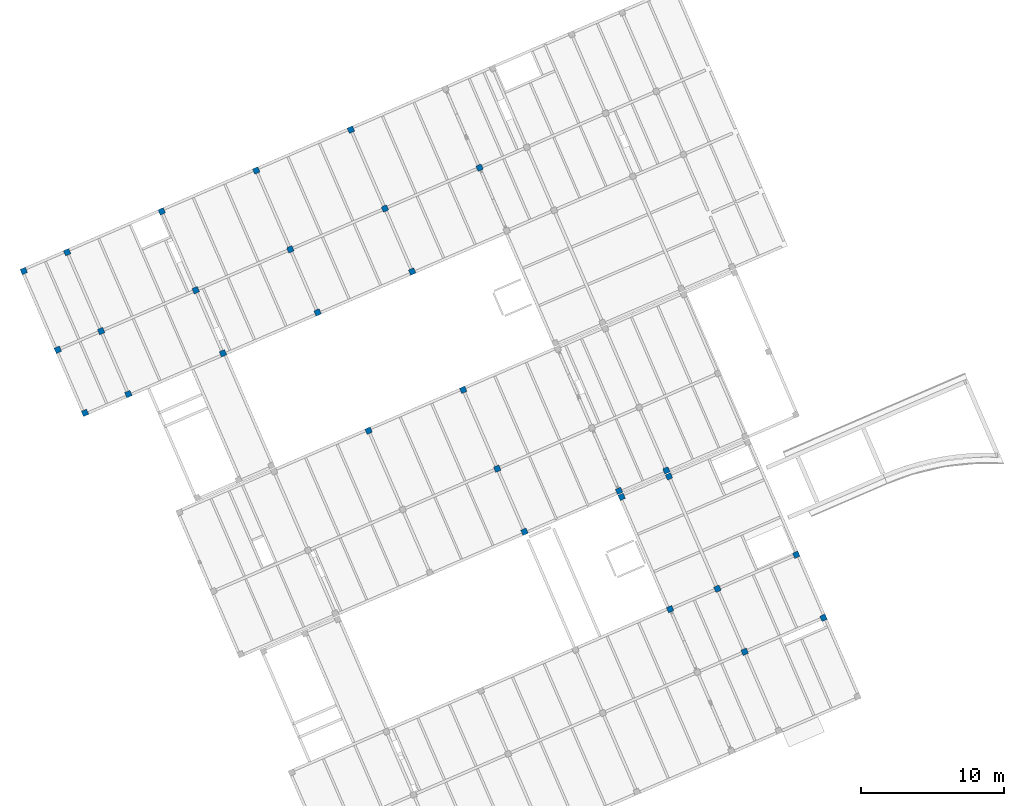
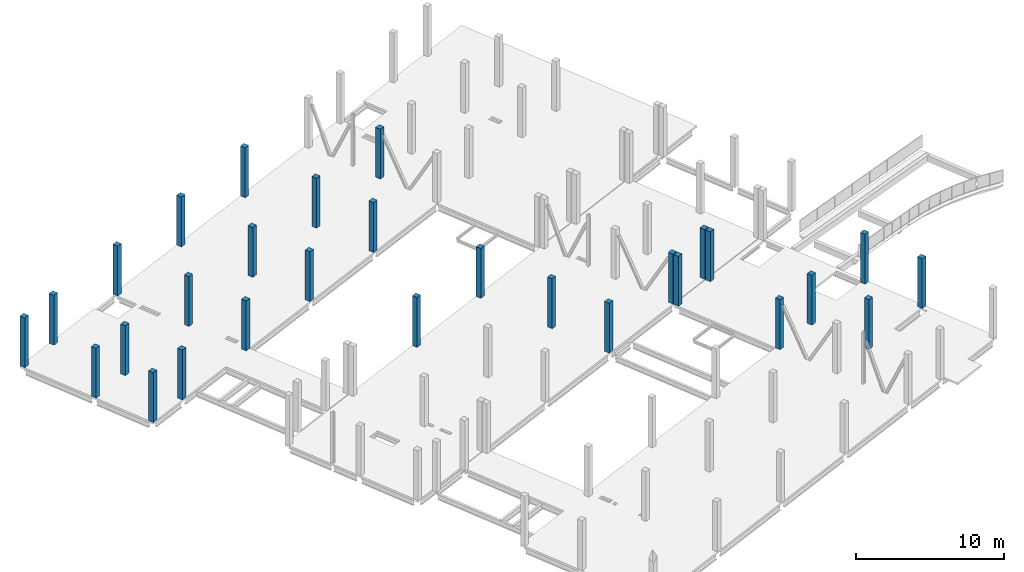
# One storey, part 4 of 24: 29 columns.
"""IFC4 building model written with IfcOpenShell, lengths in metres."""

from ifc_helpers import new_model, entity, si_unit, converted_unit, derived_unit, direction, frame, origin, place, context, subcontext, project, spatial, indexed_curve, outline, extrude, source, transform, mapped, material, type_object, type_shapes, element, save


model = new_model("IFC4")

# Units and contexts
model_context = context("Model", 3, precision=1e-05, world=origin(), true_north=direction((6.12323399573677e-17, 1.0)))
body_context = subcontext(model_context, "Body", "Model", "MODEL_VIEW")
ifc_project = project(units=[si_unit("LENGTHUNIT", "METRE"), si_unit("AREAUNIT", "SQUARE_METRE"), si_unit("VOLUMEUNIT", "CUBIC_METRE"), converted_unit("PLANEANGLEUNIT", "DEGREE", entity("IfcPlaneAngleMeasure", 0.0174532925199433), si_unit("PLANEANGLEUNIT", "RADIAN"), dimensions=[0, 0, 0, 0, 0, 0, 0]), si_unit("MASSUNIT", "GRAM", prefix="KILO"), derived_unit("MOMENTOFINERTIAUNIT", [(si_unit("LENGTHUNIT", "METRE"), 4)]), derived_unit("LINEARFORCEUNIT", [(si_unit("MASSUNIT", "GRAM", prefix="KILO"), 1), (si_unit("TIMEUNIT", "SECOND"), -2)]), derived_unit("WARPINGCONSTANTUNIT", [(si_unit("LENGTHUNIT", "METRE"), 6)]), derived_unit("THERMALTRANSMITTANCEUNIT", [(si_unit("MASSUNIT", "GRAM", prefix="KILO"), 1), (si_unit("THERMODYNAMICTEMPERATUREUNIT", "KELVIN"), -1), (si_unit("TIMEUNIT", "SECOND"), -3)]), derived_unit("USERDEFINED", [(si_unit("MASSUNIT", "GRAM", prefix="KILO"), 1), (si_unit("TIMEUNIT", "SECOND"), -2), (si_unit("THERMODYNAMICTEMPERATUREUNIT", "KELVIN"), -1)]), derived_unit("THERMALRESISTANCEUNIT", [(si_unit("MASSUNIT", "GRAM", prefix="KILO"), -1), (si_unit("TIMEUNIT", "SECOND"), 3), (si_unit("THERMODYNAMICTEMPERATUREUNIT", "KELVIN"), 1)])], contexts=[model_context])

# Site, building, storey
site_placement = place(None, origin())
site = spatial("IfcSite", under=ifc_project, at=site_placement, Name="Default", CompositionType="ELEMENT")
building_placement = place(site_placement, frame((12.6613425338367, -82.5732315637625, 317.15), z_axis=(0.0, 0.0, 1.0), x_axis=(-0.396377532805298, 0.918087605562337, 0.0)))
building = spatial("IfcBuilding", under=site, at=building_placement, Name="CESFAM Coyhaique", CompositionType="ELEMENT")
storey_placement = place(building_placement, frame((0.0, 0.0, 4.20000000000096)))
storey = spatial("IfcBuildingStorey", under=building, at=storey_placement, Name="Nivel 2", CompositionType="ELEMENT", Elevation=4.20000000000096)

# Columns
ifc_material = material(Name="HA")
column_type_1 = type_object("IfcColumnType", Name="M_Concrete-Square-Column:400 x 400mm", PredefinedType="COLUMN", material=ifc_material)
shared_shape_1 = source(origin(), body_context, "Body", "SweptSolid", [
    extrude(outline(indexed_curve([(-0.22, -0.159999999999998), (0.079999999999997, -0.159999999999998), (0.18, -0.159999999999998), (0.18, 0.240000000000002), (-0.22, 0.240000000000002), (-0.22, -0.159999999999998)], self_intersect=False)), frame((10.148853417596, -21.1571495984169, 4.20000000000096), z_axis=(0.0, 0.0, 1.0), x_axis=(-1.0, 0.0, 0.0)), (0.0, 0.0, 1.0), 4.10000000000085),
])
type_shapes(column_type_1, [shared_shape_1])
column_1_placement = place(storey_placement, frame((0.0, 0.0, -4.20000000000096)))
element("IfcColumn", 1, at=column_1_placement, inside=storey, type_object=column_type_1, Name="M_Concrete-Square-Column:400 x 400mm", ObjectType="M_Concrete-Square-Column:400 x 400mm", PredefinedType="COLUMN", context=body_context, shape_type="MappedRepresentation", body=[
    mapped(shared_shape_1, transform((0.0, 0.0, 0.0), scale=1.0)),
])
column_type_2 = type_object("IfcColumnType", Name="M_Concrete-Square-Column:400 x 400mm", PredefinedType="COLUMN", material=ifc_material)
shared_shape_2 = source(origin(), body_context, "Body", "SweptSolid", [
    extrude(outline(indexed_curve([(-0.2, -0.2), (0.2, -0.2), (0.2, 0.2), (-0.2, 0.2), (-0.2, -0.2)], self_intersect=False)), frame((14.9688534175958, -11.5971495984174, 4.20000000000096), z_axis=(0.0, 0.0, 1.0), x_axis=(-1.0, 0.0, 0.0)), (0.0, 0.0, 1.0), 4.10000000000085),
])
type_shapes(column_type_2, [shared_shape_2])
column_2_placement = place(storey_placement, frame((0.0, 0.0, -4.20000000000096)))
element("IfcColumn", 2, at=column_2_placement, inside=storey, type_object=column_type_2, Name="M_Concrete-Square-Column:400 x 400mm", ObjectType="M_Concrete-Square-Column:400 x 400mm", PredefinedType="COLUMN", context=body_context, shape_type="MappedRepresentation", body=[
    mapped(shared_shape_2, transform((0.0, 0.0, 0.0), scale=1.0)),
])
column_type_3 = type_object("IfcColumnType", Name="M_Concrete-Square-Column:400 x 400mm", PredefinedType="COLUMN", material=ifc_material)
shared_shape_3 = source(origin(), body_context, "Body", "SweptSolid", [
    extrude(outline(indexed_curve([(-0.159999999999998, -0.179999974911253), (0.240000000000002, -0.179999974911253), (0.240000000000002, 0.220000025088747), (-0.159999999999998, 0.220000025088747), (-0.159999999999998, -0.0800001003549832), (-0.159999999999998, -0.179999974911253)], self_intersect=False)), frame((15.0088534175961, -21.1771495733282, 4.20000000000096), z_axis=(0.0, 0.0, 1.0), x_axis=(-1.0, 0.0, 0.0)), (0.0, 0.0, 1.0), 4.10000000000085),
])
type_shapes(column_type_3, [shared_shape_3])
column_3_placement = place(storey_placement, frame((0.0, 0.0, -4.20000000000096)))
element("IfcColumn", 3, at=column_3_placement, inside=storey, type_object=column_type_3, Name="M_Concrete-Square-Column:400 x 400mm", ObjectType="M_Concrete-Square-Column:400 x 400mm", PredefinedType="COLUMN", context=body_context, shape_type="MappedRepresentation", body=[
    mapped(shared_shape_3, transform((0.0, 0.0, 0.0), scale=1.0)),
])
column_type_4 = type_object("IfcColumnType", Name="M_Concrete-Square-Column:400 x 400mm", PredefinedType="COLUMN", material=ifc_material)
shared_shape_4 = source(origin(), body_context, "Body", "SweptSolid", [
    extrude(outline(indexed_curve([(-0.199999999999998, -0.2), (0.200000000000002, -0.2), (0.200000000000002, 0.2), (-0.199999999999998, 0.2), (-0.199999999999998, -0.2)], self_intersect=False)), frame((23.9688534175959, -4.39714959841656, 4.20000000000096), z_axis=(0.0, 0.0, 1.0), x_axis=(-1.0, 0.0, 0.0)), (0.0, 0.0, 1.0), 4.10000000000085),
])
type_shapes(column_type_4, [shared_shape_4])
column_4_placement = place(storey_placement, frame((0.0, 0.0, -4.20000000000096)))
element("IfcColumn", 4, at=column_4_placement, inside=storey, type_object=column_type_4, Name="M_Concrete-Square-Column:400 x 400mm", ObjectType="M_Concrete-Square-Column:400 x 400mm", PredefinedType="COLUMN", context=body_context, shape_type="MappedRepresentation", body=[
    mapped(shared_shape_4, transform((0.0, 0.0, 0.0), scale=1.0)),
])
column_type_5 = type_object("IfcColumnType", Name="M_Concrete-Square-Column:400 x 400mm", PredefinedType="COLUMN", material=ifc_material)
shared_shape_5 = source(origin(), body_context, "Body", "SweptSolid", [
    extrude(outline(indexed_curve([(-0.199999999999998, -0.2), (0.200000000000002, -0.2), (0.200000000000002, 0.2), (-0.199999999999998, 0.2), (-0.199999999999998, -0.2)], self_intersect=False)), frame((23.9688534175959, -11.5971495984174, 4.20000000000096), z_axis=(0.0, 0.0, 1.0), x_axis=(-1.0, 0.0, 0.0)), (0.0, 0.0, 1.0), 4.10000000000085),
])
type_shapes(column_type_5, [shared_shape_5])
column_5_placement = place(storey_placement, frame((0.0, 0.0, -4.20000000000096)))
element("IfcColumn", 5, at=column_5_placement, inside=storey, type_object=column_type_5, Name="M_Concrete-Square-Column:400 x 400mm", ObjectType="M_Concrete-Square-Column:400 x 400mm", PredefinedType="COLUMN", context=body_context, shape_type="MappedRepresentation", body=[
    mapped(shared_shape_5, transform((0.0, 0.0, 0.0), scale=1.0)),
])
column_type_6 = type_object("IfcColumnType", Name="M_Concrete-Square-Column:400 x 400mm", PredefinedType="COLUMN", material=ifc_material)
shared_shape_6 = source(origin(), body_context, "Body", "SweptSolid", [
    extrude(outline(indexed_curve([(-0.200000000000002, -0.2), (0.199999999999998, -0.2), (0.199999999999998, 0.2), (-0.200000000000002, 0.2), (-0.200000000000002, -0.2)], self_intersect=False)), frame((28.7688534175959, -4.39714959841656, 4.20000000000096), z_axis=(0.0, 0.0, 1.0), x_axis=(-1.0, 0.0, 0.0)), (0.0, 0.0, 1.0), 4.10000000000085),
])
type_shapes(column_type_6, [shared_shape_6])
column_6_placement = place(storey_placement, frame((0.0, 0.0, -4.20000000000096)))
element("IfcColumn", 6, at=column_6_placement, inside=storey, type_object=column_type_6, Name="M_Concrete-Square-Column:400 x 400mm", ObjectType="M_Concrete-Square-Column:400 x 400mm", PredefinedType="COLUMN", context=body_context, shape_type="MappedRepresentation", body=[
    mapped(shared_shape_6, transform((0.0, 0.0, 0.0), scale=1.0)),
])
column_type_7 = type_object("IfcColumnType", Name="M_Concrete-Square-Column:400 x 400mm", PredefinedType="COLUMN", material=ifc_material)
shared_shape_7 = source(origin(), body_context, "Body", "SweptSolid", [
    extrude(outline(indexed_curve([(-0.199999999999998, -0.2), (0.200000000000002, -0.2), (0.200000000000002, 0.2), (-0.199999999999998, 0.2), (-0.199999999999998, -0.2)], self_intersect=False)), frame((34.768853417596, 2.8028504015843, 4.20000000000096), z_axis=(0.0, 0.0, 1.0), x_axis=(-1.0, 0.0, 0.0)), (0.0, 0.0, 1.0), 4.10000000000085),
])
type_shapes(column_type_7, [shared_shape_7])
column_7_placement = place(storey_placement, frame((0.0, 0.0, -4.20000000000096)))
element("IfcColumn", 7, at=column_7_placement, inside=storey, type_object=column_type_7, Name="M_Concrete-Square-Column:400 x 400mm", ObjectType="M_Concrete-Square-Column:400 x 400mm", PredefinedType="COLUMN", context=body_context, shape_type="MappedRepresentation", body=[
    mapped(shared_shape_7, transform((0.0, 0.0, 0.0), scale=1.0)),
])
column_type_8 = type_object("IfcColumnType", Name="M_Concrete-Square-Column:400 x 400mm", PredefinedType="COLUMN", material=ifc_material)
shared_shape_8 = source(origin(), body_context, "Body", "SweptSolid", [
    extrude(outline(indexed_curve([(-0.199999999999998, -0.2), (0.200000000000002, -0.2), (0.200000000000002, 0.2), (-0.199999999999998, 0.2), (-0.199999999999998, -0.2)], self_intersect=False)), frame((34.768853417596, -4.39714959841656, 4.20000000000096), z_axis=(0.0, 0.0, 1.0), x_axis=(-1.0, 0.0, 0.0)), (0.0, 0.0, 1.0), 4.10000000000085),
])
type_shapes(column_type_8, [shared_shape_8])
column_8_placement = place(storey_placement, frame((0.0, 0.0, -4.20000000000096)))
element("IfcColumn", 8, at=column_8_placement, inside=storey, type_object=column_type_8, Name="M_Concrete-Square-Column:400 x 400mm", ObjectType="M_Concrete-Square-Column:400 x 400mm", PredefinedType="COLUMN", context=body_context, shape_type="MappedRepresentation", body=[
    mapped(shared_shape_8, transform((0.0, 0.0, 0.0), scale=1.0)),
])
column_type_9 = type_object("IfcColumnType", Name="M_Concrete-Square-Column:400 x 400mm", PredefinedType="COLUMN", material=ifc_material)
shared_shape_9 = source(origin(), body_context, "Body", "SweptSolid", [
    extrude(outline(indexed_curve([(-0.199999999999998, -0.2), (0.199999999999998, -0.2), (0.199999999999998, 0.2), (-0.199999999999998, 0.2), (-0.199999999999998, -0.2)], self_intersect=False)), frame((43.7688534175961, 17.2028504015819, 4.20000000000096), z_axis=(0.0, 0.0, 1.0), x_axis=(-1.0, 0.0, 0.0)), (0.0, 0.0, 1.0), 4.10000000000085),
])
type_shapes(column_type_9, [shared_shape_9])
column_9_placement = place(storey_placement, frame((0.0, 0.0, -4.20000000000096)))
element("IfcColumn", 9, at=column_9_placement, inside=storey, type_object=column_type_9, Name="M_Concrete-Square-Column:400 x 400mm", ObjectType="M_Concrete-Square-Column:400 x 400mm", PredefinedType="COLUMN", context=body_context, shape_type="MappedRepresentation", body=[
    mapped(shared_shape_9, transform((0.0, 0.0, 0.0), scale=1.0)),
])
column_type_10 = type_object("IfcColumnType", Name="M_Concrete-Square-Column:400 x 400mm", PredefinedType="COLUMN", material=ifc_material)
shared_shape_10 = source(origin(), body_context, "Body", "SweptSolid", [
    extrude(outline(indexed_curve([(-0.199999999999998, -0.2), (0.199999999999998, -0.2), (0.199999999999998, 0.2), (-0.199999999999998, 0.2), (-0.199999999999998, -0.2)], self_intersect=False)), frame((43.7688534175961, 10.0028504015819, 4.20000000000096), z_axis=(0.0, 0.0, 1.0), x_axis=(-1.0, 0.0, 0.0)), (0.0, 0.0, 1.0), 4.10000000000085),
])
type_shapes(column_type_10, [shared_shape_10])
column_10_placement = place(storey_placement, frame((0.0, 0.0, -4.20000000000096)))
element("IfcColumn", 10, at=column_10_placement, inside=storey, type_object=column_type_10, Name="M_Concrete-Square-Column:400 x 400mm", ObjectType="M_Concrete-Square-Column:400 x 400mm", PredefinedType="COLUMN", context=body_context, shape_type="MappedRepresentation", body=[
    mapped(shared_shape_10, transform((0.0, 0.0, 0.0), scale=1.0)),
])
column_type_11 = type_object("IfcColumnType", Name="M_Concrete-Square-Column:400 x 400mm", PredefinedType="COLUMN", material=ifc_material)
shared_shape_11 = source(origin(), body_context, "Body", "SweptSolid", [
    extrude(outline(indexed_curve([(-0.199999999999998, -0.2), (0.199999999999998, -0.2), (0.199999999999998, 0.2), (-0.199999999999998, 0.2), (-0.199999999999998, -0.2)], self_intersect=False)), frame((43.7688534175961, 2.8028504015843, 4.20000000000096), z_axis=(0.0, 0.0, 1.0), x_axis=(-1.0, 0.0, 0.0)), (0.0, 0.0, 1.0), 4.10000000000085),
])
type_shapes(column_type_11, [shared_shape_11])
column_11_placement = place(storey_placement, frame((0.0, 0.0, -4.20000000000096)))
element("IfcColumn", 11, at=column_11_placement, inside=storey, type_object=column_type_11, Name="M_Concrete-Square-Column:400 x 400mm", ObjectType="M_Concrete-Square-Column:400 x 400mm", PredefinedType="COLUMN", context=body_context, shape_type="MappedRepresentation", body=[
    mapped(shared_shape_11, transform((0.0, 0.0, 0.0), scale=1.0)),
])
column_type_12 = type_object("IfcColumnType", Name="M_Concrete-Square-Column:400 x 400mm", PredefinedType="COLUMN", material=ifc_material)
shared_shape_12 = source(origin(), body_context, "Body", "SweptSolid", [
    extrude(outline(indexed_curve([(-0.199999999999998, -0.2), (0.199999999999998, -0.2), (0.199999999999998, 0.2), (-0.199999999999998, 0.2), (-0.199999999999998, -0.2)], self_intersect=False)), frame((43.7688534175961, -4.39714959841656, 4.20000000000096), z_axis=(0.0, 0.0, 1.0), x_axis=(-1.0, 0.0, 0.0)), (0.0, 0.0, 1.0), 4.10000000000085),
])
type_shapes(column_type_12, [shared_shape_12])
column_12_placement = place(storey_placement, frame((0.0, 0.0, -4.20000000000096)))
element("IfcColumn", 12, at=column_12_placement, inside=storey, type_object=column_type_12, Name="M_Concrete-Square-Column:400 x 400mm", ObjectType="M_Concrete-Square-Column:400 x 400mm", PredefinedType="COLUMN", context=body_context, shape_type="MappedRepresentation", body=[
    mapped(shared_shape_12, transform((0.0, 0.0, 0.0), scale=1.0)),
])
column_type_13 = type_object("IfcColumnType", Name="M_Concrete-Square-Column:400 x 400mm", PredefinedType="COLUMN", material=ifc_material)
shared_shape_13 = source(origin(), body_context, "Body", "SweptSolid", [
    extrude(outline(indexed_curve([(-0.199999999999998, -0.2), (0.199999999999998, -0.2), (0.199999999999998, 0.2), (-0.199999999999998, 0.2), (-0.199999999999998, -0.2)], self_intersect=False)), frame((48.5688534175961, 17.2028504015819, 4.20000000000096), z_axis=(0.0, 0.0, 1.0), x_axis=(-1.0, 0.0, 0.0)), (0.0, 0.0, 1.0), 4.10000000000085),
])
type_shapes(column_type_13, [shared_shape_13])
column_13_placement = place(storey_placement, frame((0.0, 0.0, -4.20000000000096)))
element("IfcColumn", 13, at=column_13_placement, inside=storey, type_object=column_type_13, Name="M_Concrete-Square-Column:400 x 400mm", ObjectType="M_Concrete-Square-Column:400 x 400mm", PredefinedType="COLUMN", context=body_context, shape_type="MappedRepresentation", body=[
    mapped(shared_shape_13, transform((0.0, 0.0, 0.0), scale=1.0)),
])
column_type_14 = type_object("IfcColumnType", Name="M_Concrete-Square-Column:400 x 400mm", PredefinedType="COLUMN", material=ifc_material)
shared_shape_14 = source(origin(), body_context, "Body", "SweptSolid", [
    extrude(outline(indexed_curve([(-0.199999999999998, -0.2), (0.199999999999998, -0.2), (0.199999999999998, 0.2), (-0.199999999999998, 0.2), (-0.199999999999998, -0.2)], self_intersect=False)), frame((48.5688534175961, 10.0028504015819, 4.20000000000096), z_axis=(0.0, 0.0, 1.0), x_axis=(-1.0, 0.0, 0.0)), (0.0, 0.0, 1.0), 4.10000000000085),
])
type_shapes(column_type_14, [shared_shape_14])
column_14_placement = place(storey_placement, frame((0.0, 0.0, -4.20000000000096)))
element("IfcColumn", 14, at=column_14_placement, inside=storey, type_object=column_type_14, Name="M_Concrete-Square-Column:400 x 400mm", ObjectType="M_Concrete-Square-Column:400 x 400mm", PredefinedType="COLUMN", context=body_context, shape_type="MappedRepresentation", body=[
    mapped(shared_shape_14, transform((0.0, 0.0, 0.0), scale=1.0)),
])
column_type_15 = type_object("IfcColumnType", Name="M_Concrete-Square-Column:400 x 400mm", PredefinedType="COLUMN", material=ifc_material)
shared_shape_15 = source(origin(), body_context, "Body", "SweptSolid", [
    extrude(outline(indexed_curve([(-0.199999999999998, -0.2), (0.199999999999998, -0.2), (0.199999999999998, 0.2), (-0.199999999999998, 0.2), (-0.199999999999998, -0.2)], self_intersect=False)), frame((48.5688534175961, 2.8028504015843, 4.20000000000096), z_axis=(0.0, 0.0, 1.0), x_axis=(-1.0, 0.0, 0.0)), (0.0, 0.0, 1.0), 4.10000000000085),
])
type_shapes(column_type_15, [shared_shape_15])
column_15_placement = place(storey_placement, frame((0.0, 0.0, -4.20000000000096)))
element("IfcColumn", 15, at=column_15_placement, inside=storey, type_object=column_type_15, Name="M_Concrete-Square-Column:400 x 400mm", ObjectType="M_Concrete-Square-Column:400 x 400mm", PredefinedType="COLUMN", context=body_context, shape_type="MappedRepresentation", body=[
    mapped(shared_shape_15, transform((0.0, 0.0, 0.0), scale=1.0)),
])
column_type_16 = type_object("IfcColumnType", Name="M_Concrete-Square-Column:400 x 400mm", PredefinedType="COLUMN", material=ifc_material)
shared_shape_16 = source(origin(), body_context, "Body", "SweptSolid", [
    extrude(outline(indexed_curve([(-0.199999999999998, -0.2), (0.199999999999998, -0.2), (0.199999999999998, 0.2), (-0.199999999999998, 0.2), (-0.199999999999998, -0.2)], self_intersect=False)), frame((48.5688534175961, -4.39714959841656, 4.20000000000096), z_axis=(0.0, 0.0, 1.0), x_axis=(-1.0, 0.0, 0.0)), (0.0, 0.0, 1.0), 4.10000000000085),
])
type_shapes(column_type_16, [shared_shape_16])
column_16_placement = place(storey_placement, frame((0.0, 0.0, -4.20000000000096)))
element("IfcColumn", 16, at=column_16_placement, inside=storey, type_object=column_type_16, Name="M_Concrete-Square-Column:400 x 400mm", ObjectType="M_Concrete-Square-Column:400 x 400mm", PredefinedType="COLUMN", context=body_context, shape_type="MappedRepresentation", body=[
    mapped(shared_shape_16, transform((0.0, 0.0, 0.0), scale=1.0)),
])
column_type_17 = type_object("IfcColumnType", Name="M_Concrete-Square-Column:400 x 400mm", PredefinedType="COLUMN", material=ifc_material)
shared_shape_17 = source(origin(), body_context, "Body", "SweptSolid", [
    extrude(outline(indexed_curve([(-0.199999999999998, -0.2), (0.199999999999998, -0.2), (0.199999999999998, 0.2), (-0.199999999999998, 0.2), (-0.199999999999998, -0.2)], self_intersect=False)), frame((48.5688534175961, -11.5971495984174, 4.20000000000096), z_axis=(0.0, 0.0, 1.0), x_axis=(-1.0, 0.0, 0.0)), (0.0, 0.0, 1.0), 4.10000000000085),
])
type_shapes(column_type_17, [shared_shape_17])
column_17_placement = place(storey_placement, frame((0.0, 0.0, -4.20000000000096)))
element("IfcColumn", 17, at=column_17_placement, inside=storey, type_object=column_type_17, Name="M_Concrete-Square-Column:400 x 400mm", ObjectType="M_Concrete-Square-Column:400 x 400mm", PredefinedType="COLUMN", context=body_context, shape_type="MappedRepresentation", body=[
    mapped(shared_shape_17, transform((0.0, 0.0, 0.0), scale=1.0)),
])
column_type_18 = type_object("IfcColumnType", Name="M_Concrete-Square-Column:400 x 400mm", PredefinedType="COLUMN", material=ifc_material)
shared_shape_18 = source(origin(), body_context, "Body", "SweptSolid", [
    extrude(outline(indexed_curve([(-0.199999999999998, -0.2), (0.199999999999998, -0.2), (0.199999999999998, 0.2), (-0.199999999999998, 0.2), (-0.199999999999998, -0.2)], self_intersect=False)), frame((54.5688534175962, 17.2028504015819, 4.20000000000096), z_axis=(0.0, 0.0, 1.0), x_axis=(-1.0, 0.0, 0.0)), (0.0, 0.0, 1.0), 4.10000000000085),
])
type_shapes(column_type_18, [shared_shape_18])
column_18_placement = place(storey_placement, frame((0.0, 0.0, -4.20000000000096)))
element("IfcColumn", 18, at=column_18_placement, inside=storey, type_object=column_type_18, Name="M_Concrete-Square-Column:400 x 400mm", ObjectType="M_Concrete-Square-Column:400 x 400mm", PredefinedType="COLUMN", context=body_context, shape_type="MappedRepresentation", body=[
    mapped(shared_shape_18, transform((0.0, 0.0, 0.0), scale=1.0)),
])
column_type_19 = type_object("IfcColumnType", Name="M_Concrete-Square-Column:400 x 400mm", PredefinedType="COLUMN", material=ifc_material)
shared_shape_19 = source(origin(), body_context, "Body", "SweptSolid", [
    extrude(outline(indexed_curve([(-0.199999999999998, -0.2), (0.199999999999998, -0.2), (0.199999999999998, 0.2), (-0.199999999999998, 0.2), (-0.199999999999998, -0.2)], self_intersect=False)), frame((54.5688534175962, 10.0028504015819, 4.20000000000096), z_axis=(0.0, 0.0, 1.0), x_axis=(-1.0, 0.0, 0.0)), (0.0, 0.0, 1.0), 4.10000000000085),
])
type_shapes(column_type_19, [shared_shape_19])
column_19_placement = place(storey_placement, frame((0.0, 0.0, -4.20000000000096)))
element("IfcColumn", 19, at=column_19_placement, inside=storey, type_object=column_type_19, Name="M_Concrete-Square-Column:400 x 400mm", ObjectType="M_Concrete-Square-Column:400 x 400mm", PredefinedType="COLUMN", context=body_context, shape_type="MappedRepresentation", body=[
    mapped(shared_shape_19, transform((0.0, 0.0, 0.0), scale=1.0)),
])
column_type_20 = type_object("IfcColumnType", Name="M_Concrete-Square-Column:400 x 400mm", PredefinedType="COLUMN", material=ifc_material)
shared_shape_20 = source(origin(), body_context, "Body", "SweptSolid", [
    extrude(outline(indexed_curve([(-0.199999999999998, -0.2), (0.199999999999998, -0.2), (0.199999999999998, 0.2), (-0.199999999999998, 0.2), (-0.199999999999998, -0.2)], self_intersect=False)), frame((54.5688534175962, 2.8028504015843, 4.20000000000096), z_axis=(0.0, 0.0, 1.0), x_axis=(-1.0, 0.0, 0.0)), (0.0, 0.0, 1.0), 4.10000000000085),
])
type_shapes(column_type_20, [shared_shape_20])
column_20_placement = place(storey_placement, frame((0.0, 0.0, -4.20000000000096)))
element("IfcColumn", 20, at=column_20_placement, inside=storey, type_object=column_type_20, Name="M_Concrete-Square-Column:400 x 400mm", ObjectType="M_Concrete-Square-Column:400 x 400mm", PredefinedType="COLUMN", context=body_context, shape_type="MappedRepresentation", body=[
    mapped(shared_shape_20, transform((0.0, 0.0, 0.0), scale=1.0)),
])
column_type_21 = type_object("IfcColumnType", Name="M_Concrete-Square-Column:400 x 400mm", PredefinedType="COLUMN", material=ifc_material)
shared_shape_21 = source(origin(), body_context, "Body", "SweptSolid", [
    extrude(outline(indexed_curve([(-0.199999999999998, -0.2), (0.199999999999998, -0.2), (0.199999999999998, 0.2), (-0.199999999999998, 0.2), (-0.199999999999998, -0.2)], self_intersect=False)), frame((54.5688534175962, -4.39714959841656, 4.20000000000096), z_axis=(0.0, 0.0, 1.0), x_axis=(-1.0, 0.0, 0.0)), (0.0, 0.0, 1.0), 4.10000000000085),
])
type_shapes(column_type_21, [shared_shape_21])
column_21_placement = place(storey_placement, frame((0.0, 0.0, -4.20000000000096)))
element("IfcColumn", 21, at=column_21_placement, inside=storey, type_object=column_type_21, Name="M_Concrete-Square-Column:400 x 400mm", ObjectType="M_Concrete-Square-Column:400 x 400mm", PredefinedType="COLUMN", context=body_context, shape_type="MappedRepresentation", body=[
    mapped(shared_shape_21, transform((0.0, 0.0, 0.0), scale=1.0)),
])
column_type_22 = type_object("IfcColumnType", Name="M_Concrete-Square-Column:400 x 400mm", PredefinedType="COLUMN", material=ifc_material)
shared_shape_22 = source(origin(), body_context, "Body", "SweptSolid", [
    extrude(outline(indexed_curve([(-0.2, -0.2), (0.2, -0.2), (0.2, 0.2), (-0.2, 0.2), (-0.2, -0.2)], self_intersect=False)), frame((10.1688534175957, -15.1971495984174, 4.20000000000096), z_axis=(0.0, 0.0, 1.0), x_axis=(-1.0, 0.0, 0.0)), (0.0, 0.0, 1.0), 4.10000000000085),
])
type_shapes(column_type_22, [shared_shape_22])
column_22_placement = place(storey_placement, frame((0.0, 0.0, -4.20000000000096)))
element("IfcColumn", 22, at=column_22_placement, inside=storey, type_object=column_type_22, Name="M_Concrete-Square-Column:400 x 400mm", ObjectType="M_Concrete-Square-Column:400 x 400mm", PredefinedType="COLUMN", context=body_context, shape_type="MappedRepresentation", body=[
    mapped(shared_shape_22, transform((0.0, 0.0, 0.0), scale=1.0)),
])
column_type_23 = type_object("IfcColumnType", Name="M_Concrete-Square-Column:400 x 400mm", PredefinedType="COLUMN", material=ifc_material)
shared_shape_23 = source(origin(), body_context, "Body", "SweptSolid", [
    extrude(outline(indexed_curve([(-0.2, -0.2), (0.2, -0.2), (0.2, 0.2), (-0.2, 0.2), (-0.2, -0.2)], self_intersect=False)), frame((14.9688534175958, -15.1971495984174, 4.20000000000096), z_axis=(0.0, 0.0, 1.0), x_axis=(-1.0, 0.0, 0.0)), (0.0, 0.0, 1.0), 4.10000000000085),
])
type_shapes(column_type_23, [shared_shape_23])
column_23_placement = place(storey_placement, frame((0.0, 0.0, -4.20000000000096)))
element("IfcColumn", 23, at=column_23_placement, inside=storey, type_object=column_type_23, Name="M_Concrete-Square-Column:400 x 400mm", ObjectType="M_Concrete-Square-Column:400 x 400mm", PredefinedType="COLUMN", context=body_context, shape_type="MappedRepresentation", body=[
    mapped(shared_shape_23, transform((0.0, 0.0, 0.0), scale=1.0)),
])
column_type_24 = type_object("IfcColumnType", Name="M_Concrete-Square-Column:400 x 400mm", PredefinedType="COLUMN", material=ifc_material)
shared_shape_24 = source(origin(), body_context, "Body", "SweptSolid", [
    extrude(outline(indexed_curve([(-0.199999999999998, -0.2), (0.200000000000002, -0.2), (0.200000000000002, 0.2), (-0.199999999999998, 0.2), (-0.199999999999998, -0.2)], self_intersect=False)), frame((23.9688534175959, -15.1971495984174, 4.20000000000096), z_axis=(0.0, 0.0, 1.0), x_axis=(-1.0, 0.0, 0.0)), (0.0, 0.0, 1.0), 4.10000000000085),
])
type_shapes(column_type_24, [shared_shape_24])
column_24_placement = place(storey_placement, frame((0.0, 0.0, -4.20000000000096)))
element("IfcColumn", 24, at=column_24_placement, inside=storey, type_object=column_type_24, Name="M_Concrete-Square-Column:400 x 400mm", ObjectType="M_Concrete-Square-Column:400 x 400mm", PredefinedType="COLUMN", context=body_context, shape_type="MappedRepresentation", body=[
    mapped(shared_shape_24, transform((0.0, 0.0, 0.0), scale=1.0)),
])
column_type_25 = type_object("IfcColumnType", Name="M_Concrete-Square-Column:400 x 400mm", PredefinedType="COLUMN", material=ifc_material)
shared_shape_25 = source(origin(), body_context, "Body", "SweptSolid", [
    extrude(outline(indexed_curve([(-0.199999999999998, -0.199999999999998), (0.199999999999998, -0.199999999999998), (0.199999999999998, 0.200000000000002), (-0.199999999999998, 0.200000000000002), (-0.199999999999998, -0.199999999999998)], self_intersect=False)), frame((43.7688534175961, 20.5028502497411, 4.20000000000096), z_axis=(0.0, 0.0, 1.0), x_axis=(-1.0, 0.0, 0.0)), (0.0, 0.0, 1.0), 4.10000000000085),
])
type_shapes(column_type_25, [shared_shape_25])
column_25_placement = place(storey_placement, frame((0.0, 0.0, -4.20000000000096)))
element("IfcColumn", 25, at=column_25_placement, inside=storey, type_object=column_type_25, Name="M_Concrete-Square-Column:400 x 400mm", ObjectType="M_Concrete-Square-Column:400 x 400mm", PredefinedType="COLUMN", context=body_context, shape_type="MappedRepresentation", body=[
    mapped(shared_shape_25, transform((0.0, 0.0, 0.0), scale=1.0)),
])
column_type_26 = type_object("IfcColumnType", Name="M_Concrete-Square-Column:400 x 400mm", PredefinedType="COLUMN", material=ifc_material)
shared_shape_26 = source(origin(), body_context, "Body", "SweptSolid", [
    extrude(outline(indexed_curve([(-0.199999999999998, -0.199999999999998), (0.199999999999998, -0.199999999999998), (0.199999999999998, 0.200000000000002), (-0.199999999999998, 0.200000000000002), (-0.199999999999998, -0.199999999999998)], self_intersect=False)), frame((48.5688534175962, 20.5028502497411, 4.20000000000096), z_axis=(0.0, 0.0, 1.0), x_axis=(-1.0, 0.0, 0.0)), (0.0, 0.0, 1.0), 4.10000000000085),
])
type_shapes(column_type_26, [shared_shape_26])
column_26_placement = place(storey_placement, frame((0.0, 0.0, -4.20000000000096)))
element("IfcColumn", 26, at=column_26_placement, inside=storey, type_object=column_type_26, Name="M_Concrete-Square-Column:400 x 400mm", ObjectType="M_Concrete-Square-Column:400 x 400mm", PredefinedType="COLUMN", context=body_context, shape_type="MappedRepresentation", body=[
    mapped(shared_shape_26, transform((0.0, 0.0, 0.0), scale=1.0)),
])
column_type_27 = type_object("IfcColumnType", Name="M_Concrete-Square-Column:400 x 400mm", PredefinedType="COLUMN", material=ifc_material)
shared_shape_27 = source(origin(), body_context, "Body", "SweptSolid", [
    extrude(outline(indexed_curve([(-0.200000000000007, -0.199999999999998), (0.199999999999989, -0.199999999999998), (0.199999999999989, 0.200000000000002), (-0.200000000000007, 0.200000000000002), (-0.200000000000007, -0.199999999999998)], self_intersect=False)), frame((54.5688534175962, 20.5028502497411, 4.20000000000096), z_axis=(0.0, 0.0, 1.0), x_axis=(-1.0, 0.0, 0.0)), (0.0, 0.0, 1.0), 4.10000000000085),
])
type_shapes(column_type_27, [shared_shape_27])
column_27_placement = place(storey_placement, frame((0.0, 0.0, -4.20000000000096)))
element("IfcColumn", 27, at=column_27_placement, inside=storey, type_object=column_type_27, Name="M_Concrete-Square-Column:400 x 400mm", ObjectType="M_Concrete-Square-Column:400 x 400mm", PredefinedType="COLUMN", context=body_context, shape_type="MappedRepresentation", body=[
    mapped(shared_shape_27, transform((0.0, 0.0, 0.0), scale=1.0)),
])
column_type_28 = type_object("IfcColumnType", Name="M_Concrete-Square-Column:400 x 400mm", PredefinedType="COLUMN", material=ifc_material)
shared_shape_28 = source(origin(), body_context, "Body", "SweptSolid", [
    extrude(outline(indexed_curve([(-0.200000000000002, -0.2), (0.199999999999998, -0.2), (0.199999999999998, 0.2), (-0.200000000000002, 0.2), (-0.200000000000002, -0.2)], self_intersect=False)), frame((23.5188534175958, -11.5971495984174, 4.20000000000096), z_axis=(0.0, 0.0, 1.0), x_axis=(-1.0, 0.0, 0.0)), (0.0, 0.0, 1.0), 4.10000000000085),
])
type_shapes(column_type_28, [shared_shape_28])
column_28_placement = place(storey_placement, frame((0.0, 0.0, -4.20000000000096)))
element("IfcColumn", 28, at=column_28_placement, inside=storey, type_object=column_type_28, Name="M_Concrete-Square-Column:400 x 400mm", ObjectType="M_Concrete-Square-Column:400 x 400mm", PredefinedType="COLUMN", context=body_context, shape_type="MappedRepresentation", body=[
    mapped(shared_shape_28, transform((0.0, 0.0, 0.0), scale=1.0)),
])
column_type_29 = type_object("IfcColumnType", Name="M_Concrete-Square-Column:400 x 400mm", PredefinedType="COLUMN", material=ifc_material)
shared_shape_29 = source(origin(), body_context, "Body", "SweptSolid", [
    extrude(outline(indexed_curve([(-0.200000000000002, -0.2), (0.199999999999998, -0.2), (0.199999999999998, 0.2), (-0.200000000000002, 0.2), (-0.200000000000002, -0.2)], self_intersect=False)), frame((23.5188534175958, -15.1971495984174, 4.20000000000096), z_axis=(0.0, 0.0, 1.0), x_axis=(-1.0, 0.0, 0.0)), (0.0, 0.0, 1.0), 4.10000000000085),
])
type_shapes(column_type_29, [shared_shape_29])
column_29_placement = place(storey_placement, frame((0.0, 0.0, -4.20000000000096)))
element("IfcColumn", 29, at=column_29_placement, inside=storey, type_object=column_type_29, Name="M_Concrete-Square-Column:400 x 400mm", ObjectType="M_Concrete-Square-Column:400 x 400mm", PredefinedType="COLUMN", context=body_context, shape_type="MappedRepresentation", body=[
    mapped(shared_shape_29, transform((0.0, 0.0, 0.0), scale=1.0)),
])

save(model, "model.ifc")
